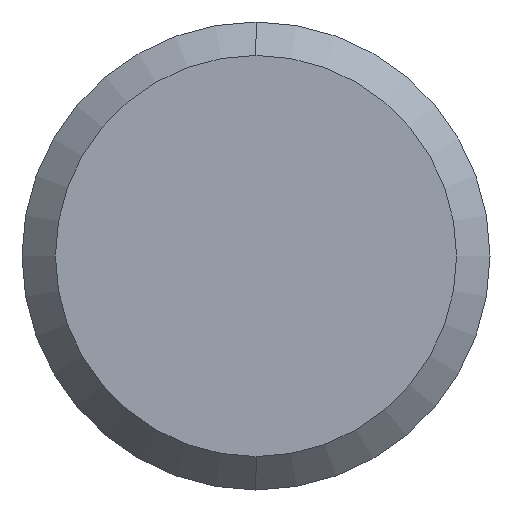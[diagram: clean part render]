
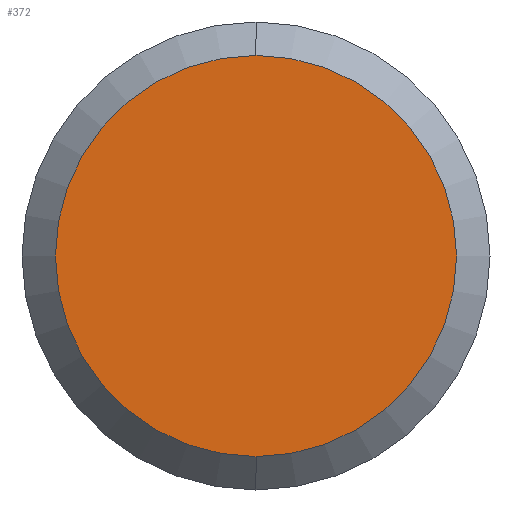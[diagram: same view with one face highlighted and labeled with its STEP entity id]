
A CAD part, left-side view. The second image highlights one B-rep face of the part: STEP entity #372.
In plain terms, the highlighted planar face has unit normal (-1, 0, 0).
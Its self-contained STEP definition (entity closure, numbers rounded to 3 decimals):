
#2 = ORIENTED_EDGE ( 'NONE', *, *, #166, .T. ) ;
#72 = EDGE_CURVE ( 'NONE', #378, #322, #266, .T. ) ;
#73 = DIRECTION ( 'NONE',  ( 0., 0., 1. ) ) ;
#85 = CARTESIAN_POINT ( 'NONE',  ( 0., 0., 0. ) ) ;
#101 = AXIS2_PLACEMENT_3D ( 'NONE', #364, #366, #300 ) ;
#166 = EDGE_CURVE ( 'NONE', #322, #378, #185, .T. ) ;
#169 = AXIS2_PLACEMENT_3D ( 'NONE', #386, #444, #201 ) ;
#177 = AXIS2_PLACEMENT_3D ( 'NONE', #85, #221, #73 ) ;
#185 = CIRCLE ( 'NONE', #177, 6. ) ;
#201 = DIRECTION ( 'NONE',  ( 0., 0., 1. ) ) ;
#221 = DIRECTION ( 'NONE',  ( -1., 0., 0. ) ) ;
#266 = CIRCLE ( 'NONE', #169, 6. ) ;
#299 = CARTESIAN_POINT ( 'NONE',  ( 0., 0., 6. ) ) ;
#300 = DIRECTION ( 'NONE',  ( 0., 0., -1. ) ) ;
#321 = PLANE ( 'NONE',  #101 ) ;
#322 = VERTEX_POINT ( 'NONE', #391 ) ;
#349 = EDGE_LOOP ( 'NONE', ( #2, #452 ) ) ;
#364 = CARTESIAN_POINT ( 'NONE',  ( 0., 0., -6. ) ) ;
#366 = DIRECTION ( 'NONE',  ( 1., 0., 0. ) ) ;
#372 = ADVANCED_FACE ( 'NONE', ( #475 ), #321, .F. ) ;
#378 = VERTEX_POINT ( 'NONE', #299 ) ;
#386 = CARTESIAN_POINT ( 'NONE',  ( 0., 0., 0. ) ) ;
#391 = CARTESIAN_POINT ( 'NONE',  ( 0., 0., -6. ) ) ;
#444 = DIRECTION ( 'NONE',  ( -1., 0., 0. ) ) ;
#452 = ORIENTED_EDGE ( 'NONE', *, *, #72, .T. ) ;
#475 = FACE_OUTER_BOUND ( 'NONE', #349, .T. ) ;
